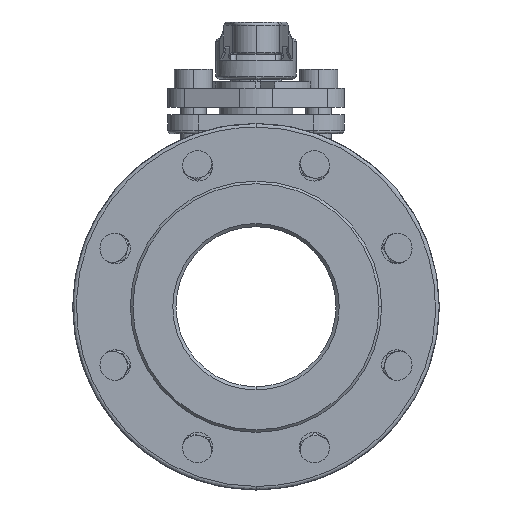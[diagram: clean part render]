
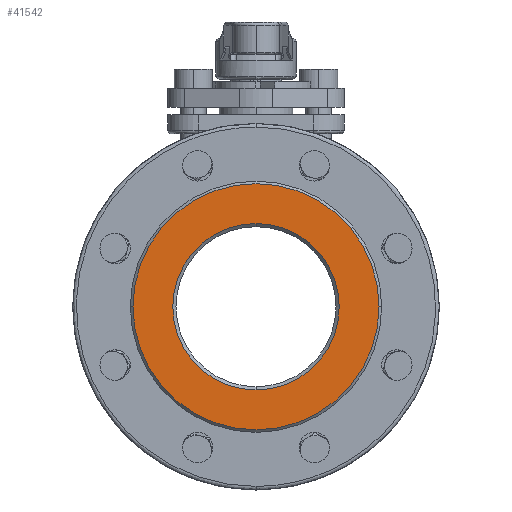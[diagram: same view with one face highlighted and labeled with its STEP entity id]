
A CAD part, left-side view. The second image highlights one B-rep face of the part: STEP entity #41542.
In plain terms, the highlighted planar face has unit normal (-1, 0, 0).
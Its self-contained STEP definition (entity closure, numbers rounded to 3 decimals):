
#27266 = VERTEX_POINT('',#27267);
#27267 = CARTESIAN_POINT('',(-131.9,-62.,114.));
#27274 = CONICAL_SURFACE('',#27275,50.,0.785);
#27275 = AXIS2_PLACEMENT_3D('',#27276,#27277,#27278);
#27276 = CARTESIAN_POINT('',(-129.9,-62.,62.));
#27277 = DIRECTION('',(-1.,0.,0.));
#27278 = DIRECTION('',(0.,0.,1.));
#27286 = CONICAL_SURFACE('',#27287,50.,0.785);
#27287 = AXIS2_PLACEMENT_3D('',#27288,#27289,#27290);
#27288 = CARTESIAN_POINT('',(-129.9,-62.,62.));
#27289 = DIRECTION('',(-1.,0.,0.));
#27290 = DIRECTION('',(0.,0.,1.));
#27298 = EDGE_CURVE('',#27299,#27266,#27301,.T.);
#27299 = VERTEX_POINT('',#27300);
#27300 = CARTESIAN_POINT('',(-131.9,-62.,10.));
#27301 = SURFACE_CURVE('',#27302,(#27307,#27314),.PCURVE_S1.);
#27302 = CIRCLE('',#27303,52.);
#27303 = AXIS2_PLACEMENT_3D('',#27304,#27305,#27306);
#27304 = CARTESIAN_POINT('',(-131.9,-62.,62.));
#27305 = DIRECTION('',(-1.,0.,0.));
#27306 = DIRECTION('',(0.,0.,1.));
#27307 = PCURVE('',#27274,#27308);
#27308 = DEFINITIONAL_REPRESENTATION('',(#27309),#27313);
#27309 = LINE('',#27310,#27311);
#27310 = CARTESIAN_POINT('',(0.,2.));
#27311 = VECTOR('',#27312,1.);
#27312 = DIRECTION('',(1.,0.));
#27313 = ( GEOMETRIC_REPRESENTATION_CONTEXT(2) 
PARAMETRIC_REPRESENTATION_CONTEXT() REPRESENTATION_CONTEXT('2D SPACE',''
  ) );
#27314 = PCURVE('',#27315,#27320);
#27315 = PLANE('',#27316);
#27316 = AXIS2_PLACEMENT_3D('',#27317,#27318,#27319);
#27317 = CARTESIAN_POINT('',(-131.9,-139.823,139.823));
#27318 = DIRECTION('',(-1.,0.,0.));
#27319 = DIRECTION('',(0.,1.,0.));
#27320 = DEFINITIONAL_REPRESENTATION('',(#27321),#27325);
#27321 = CIRCLE('',#27322,52.);
#27322 = AXIS2_PLACEMENT_2D('',#27323,#27324);
#27323 = CARTESIAN_POINT('',(77.823,77.823));
#27324 = DIRECTION('',(0.,-1.));
#27325 = ( GEOMETRIC_REPRESENTATION_CONTEXT(2) 
PARAMETRIC_REPRESENTATION_CONTEXT() REPRESENTATION_CONTEXT('2D SPACE',''
  ) );
#27470 = EDGE_CURVE('',#27471,#27473,#27475,.T.);
#27471 = VERTEX_POINT('',#27472);
#27472 = CARTESIAN_POINT('',(-131.9,14.9,62.));
#27473 = VERTEX_POINT('',#27474);
#27474 = CARTESIAN_POINT('',(-131.9,-138.9,62.));
#27475 = SURFACE_CURVE('',#27476,(#27481,#27493),.PCURVE_S1.);
#27476 = CIRCLE('',#27477,76.9);
#27477 = AXIS2_PLACEMENT_3D('',#27478,#27479,#27480);
#27478 = CARTESIAN_POINT('',(-131.9,-62.,62.));
#27479 = DIRECTION('',(-1.,0.,0.));
#27480 = DIRECTION('',(0.,-1.,0.));
#27481 = PCURVE('',#27482,#27487);
#27482 = CONICAL_SURFACE('',#27483,76.9,0.785);
#27483 = AXIS2_PLACEMENT_3D('',#27484,#27485,#27486);
#27484 = CARTESIAN_POINT('',(-131.9,-62.,62.));
#27485 = DIRECTION('',(1.,0.,0.));
#27486 = DIRECTION('',(0.,-1.,0.));
#27487 = DEFINITIONAL_REPRESENTATION('',(#27488),#27492);
#27488 = LINE('',#27489,#27490);
#27489 = CARTESIAN_POINT('',(6.283,0.));
#27490 = VECTOR('',#27491,1.);
#27491 = DIRECTION('',(-1.,0.));
#27492 = ( GEOMETRIC_REPRESENTATION_CONTEXT(2) 
PARAMETRIC_REPRESENTATION_CONTEXT() REPRESENTATION_CONTEXT('2D SPACE',''
  ) );
#27493 = PCURVE('',#27315,#27494);
#27494 = DEFINITIONAL_REPRESENTATION('',(#27495),#27499);
#27495 = CIRCLE('',#27496,76.9);
#27496 = AXIS2_PLACEMENT_2D('',#27497,#27498);
#27497 = CARTESIAN_POINT('',(77.823,77.823));
#27498 = DIRECTION('',(-1.,0.));
#27499 = ( GEOMETRIC_REPRESENTATION_CONTEXT(2) 
PARAMETRIC_REPRESENTATION_CONTEXT() REPRESENTATION_CONTEXT('2D SPACE',''
  ) );
#27517 = CONICAL_SURFACE('',#27518,76.9,0.785);
#27518 = AXIS2_PLACEMENT_3D('',#27519,#27520,#27521);
#27519 = CARTESIAN_POINT('',(-131.9,-62.,62.));
#27520 = DIRECTION('',(1.,0.,0.));
#27521 = DIRECTION('',(0.,-1.,0.));
#41491 = EDGE_CURVE('',#27473,#27471,#41492,.T.);
#41492 = SURFACE_CURVE('',#41493,(#41498,#41505),.PCURVE_S1.);
#41493 = CIRCLE('',#41494,76.9);
#41494 = AXIS2_PLACEMENT_3D('',#41495,#41496,#41497);
#41495 = CARTESIAN_POINT('',(-131.9,-62.,62.));
#41496 = DIRECTION('',(-1.,0.,0.));
#41497 = DIRECTION('',(0.,-1.,0.));
#41498 = PCURVE('',#27517,#41499);
#41499 = DEFINITIONAL_REPRESENTATION('',(#41500),#41504);
#41500 = LINE('',#41501,#41502);
#41501 = CARTESIAN_POINT('',(6.283,0.));
#41502 = VECTOR('',#41503,1.);
#41503 = DIRECTION('',(-1.,0.));
#41504 = ( GEOMETRIC_REPRESENTATION_CONTEXT(2) 
PARAMETRIC_REPRESENTATION_CONTEXT() REPRESENTATION_CONTEXT('2D SPACE',''
  ) );
#41505 = PCURVE('',#27315,#41506);
#41506 = DEFINITIONAL_REPRESENTATION('',(#41507),#41511);
#41507 = CIRCLE('',#41508,76.9);
#41508 = AXIS2_PLACEMENT_2D('',#41509,#41510);
#41509 = CARTESIAN_POINT('',(77.823,77.823));
#41510 = DIRECTION('',(-1.,0.));
#41511 = ( GEOMETRIC_REPRESENTATION_CONTEXT(2) 
PARAMETRIC_REPRESENTATION_CONTEXT() REPRESENTATION_CONTEXT('2D SPACE',''
  ) );
#41542 = ADVANCED_FACE('',(#41543,#41568),#27315,.T.);
#41543 = FACE_BOUND('',#41544,.T.);
#41544 = EDGE_LOOP('',(#41545,#41567));
#41545 = ORIENTED_EDGE('',*,*,#41546,.F.);
#41546 = EDGE_CURVE('',#27266,#27299,#41547,.T.);
#41547 = SURFACE_CURVE('',#41548,(#41553,#41560),.PCURVE_S1.);
#41548 = CIRCLE('',#41549,52.);
#41549 = AXIS2_PLACEMENT_3D('',#41550,#41551,#41552);
#41550 = CARTESIAN_POINT('',(-131.9,-62.,62.));
#41551 = DIRECTION('',(-1.,0.,0.));
#41552 = DIRECTION('',(0.,0.,1.));
#41553 = PCURVE('',#27315,#41554);
#41554 = DEFINITIONAL_REPRESENTATION('',(#41555),#41559);
#41555 = CIRCLE('',#41556,52.);
#41556 = AXIS2_PLACEMENT_2D('',#41557,#41558);
#41557 = CARTESIAN_POINT('',(77.823,77.823));
#41558 = DIRECTION('',(0.,-1.));
#41559 = ( GEOMETRIC_REPRESENTATION_CONTEXT(2) 
PARAMETRIC_REPRESENTATION_CONTEXT() REPRESENTATION_CONTEXT('2D SPACE',''
  ) );
#41560 = PCURVE('',#27286,#41561);
#41561 = DEFINITIONAL_REPRESENTATION('',(#41562),#41566);
#41562 = LINE('',#41563,#41564);
#41563 = CARTESIAN_POINT('',(0.,2.));
#41564 = VECTOR('',#41565,1.);
#41565 = DIRECTION('',(1.,0.));
#41566 = ( GEOMETRIC_REPRESENTATION_CONTEXT(2) 
PARAMETRIC_REPRESENTATION_CONTEXT() REPRESENTATION_CONTEXT('2D SPACE',''
  ) );
#41567 = ORIENTED_EDGE('',*,*,#27298,.F.);
#41568 = FACE_BOUND('',#41569,.T.);
#41569 = EDGE_LOOP('',(#41570,#41571));
#41570 = ORIENTED_EDGE('',*,*,#41491,.T.);
#41571 = ORIENTED_EDGE('',*,*,#27470,.T.);
